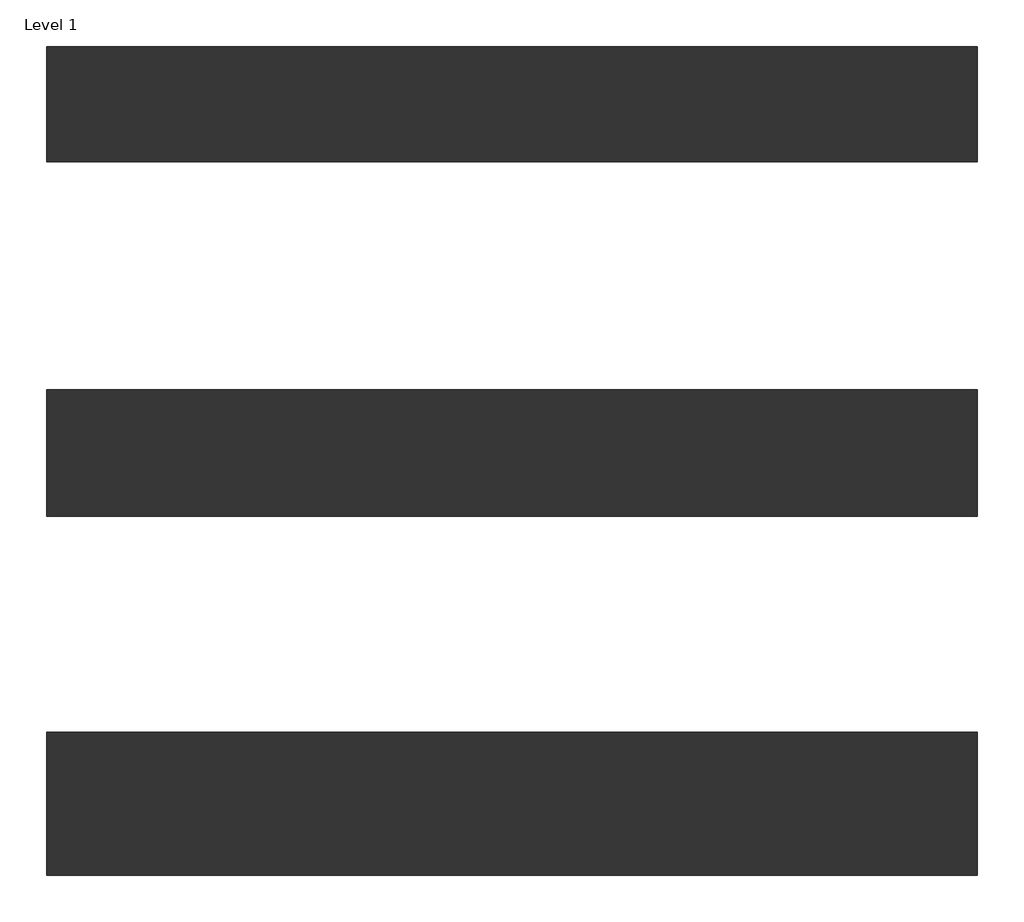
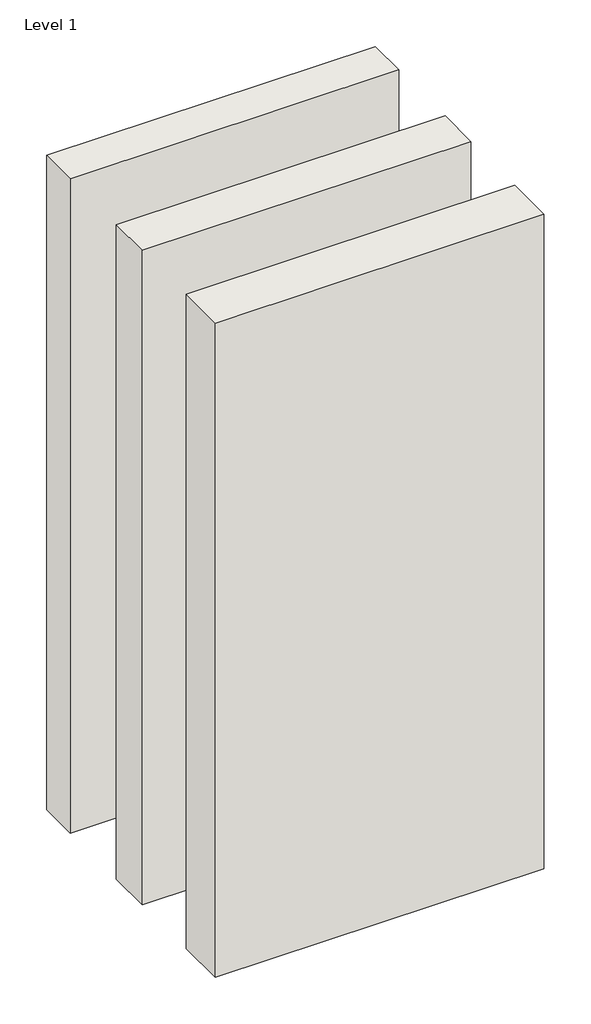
# One storey: 3 walls.
"""IFC4 building model written with IfcOpenShell, lengths in millimetres."""

from ifc_helpers import new_model, si_unit, origin, origin_with_axes, place, context, project, spatial, polyline, outline, extrude, element, save

model = new_model("IFC4")

# Units and contexts
model_context = context("Model", 3, world=origin())
ifc_project = project(units=[si_unit("LENGTHUNIT", "METRE", prefix="MILLI")], contexts=[model_context])

# Site, building, storey
site = spatial("IfcSite", under=ifc_project)
building = spatial("IfcBuilding", under=site)
storey = spatial("IfcBuildingStorey", under=building, Name="Level 1", Elevation=0.0)

# Walls
placement = place(None, origin())
element("IfcWall", 1, ObjectType="Interior-Steel Frame-Party Wall-CSR1565-235mm", at=placement, inside=storey, context=model_context, shape_type="SweptSolid", body=[
    extrude(outline(polyline([(-685.3694195, -614.3822019), (1214.6305805, -614.3822019), (1214.6305805, -849.3822019), (-685.3694195, -849.3822019), (-685.3694195, -614.3822019)])), origin_with_axes(), (0.0, 0.0, 1.0), 4000.0),
])
element("IfcWall", 2, ObjectType="Interior-Steel Frame-Party Wall-CSR1565-259mm", at=placement, inside=storey, context=model_context, shape_type="SweptSolid", body=[
    extrude(outline(polyline([(-685.3694195, -1314.3822019), (1214.6305805, -1314.3822019), (1214.6305805, -1573.3822019), (-685.3694195, -1573.3822019), (-685.3694195, -1314.3822019)])), origin_with_axes(), (0.0, 0.0, 1.0), 4000.0),
])
element("IfcWall", 3, ObjectType="Interior-Steel Frame-Party Wall-CSR1565-291mm", at=placement, inside=storey, context=model_context, shape_type="SweptSolid", body=[
    extrude(outline(polyline([(-685.3694195, -2014.3822019), (1214.6305805, -2014.3822019), (1214.6305805, -2305.3822019), (-685.3694195, -2305.3822019), (-685.3694195, -2014.3822019)])), origin_with_axes(), (0.0, 0.0, 1.0), 4000.0),
])

save(model, "model.ifc")
